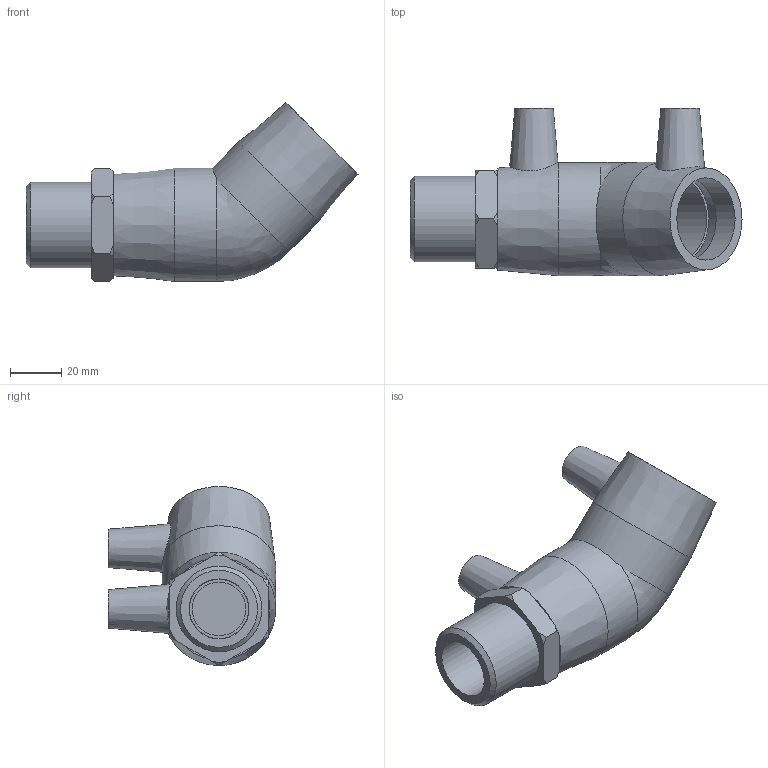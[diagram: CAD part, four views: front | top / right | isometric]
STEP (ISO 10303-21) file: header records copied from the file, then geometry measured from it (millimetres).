
FILE_DESCRIPTION(/* description */ ('PLASSON 45° ELBOW TRANSITION MALE 32-1"'),/* implementation_level */ '2;1');
FILE_NAME(/* name */ 'C:\Dropbox\KIMPROJECTS-Inventor\99-16-3568-Processing\ElectroFusion Fittings\02.02.20\492604\492604032010.ipt.stp',/* time_stamp */ '2020-02-02T12:19:51+02:00',/* author */ ('KIM'),/* organization */ (''),/* preprocessor_version */ 'ST-DEVELOPER v15.6',/* originating_system */ 'Autodesk Inventor 2015',/* authorisation */ '');
FILE_SCHEMA (('AUTOMOTIVE_DESIGN { 1 0 10303 214 3 1 1 }'));
Length unit declared in the file: millimetre
Products named in the file (1): 492604032010
Bounding box: 129 x 65 x 69.55 mm (x, y, z)
Volume: 113868.9 mm3; surface area: 33835.6 mm2
Topology: 1 solids, 2 shells, 59 faces, 133 edges, 88 vertices
Faces by surface type: plane 24, cone 19, cylinder 15, bspline 1
Full cylindrical faces by diameter (mm): 4 x2, 10 x2, 20.8 x2, 23 x1, 23.274 x1, 32 x4, 33.249 x1, 44 x2
Entity records: 1500 total; most frequent: CARTESIAN_POINT 369, DIRECTION 236, ORIENTED_EDGE 188, AXIS2_PLACEMENT_3D 109, EDGE_LOOP 97, EDGE_CURVE 94, VERTEX_POINT 75, FACE_OUTER_BOUND 59
